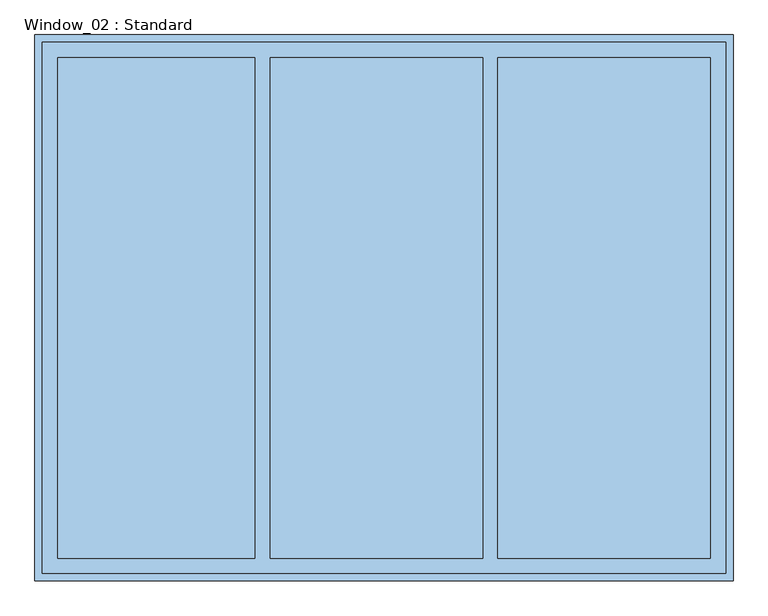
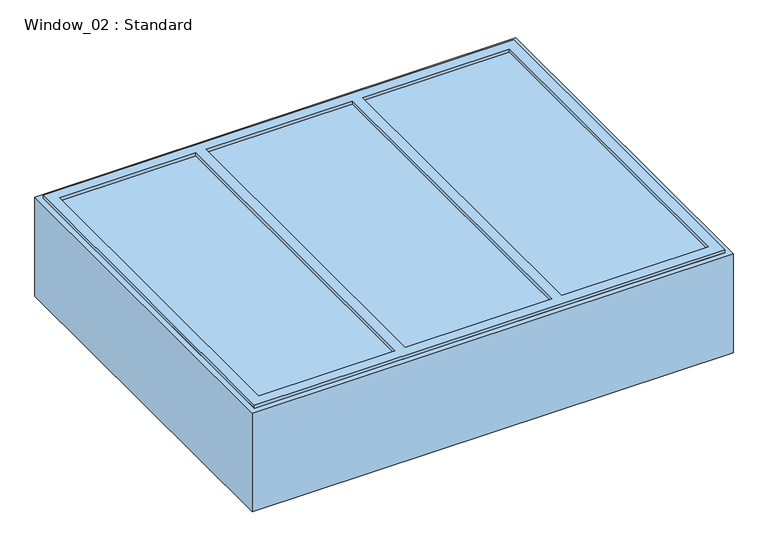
"""IFC4 building model written with IfcOpenShell, lengths in millimetres: window geometry, Window_02 : Standard."""

import ifcopenshell
import ifcopenshell.guid

model = None  # the IFC model being written
_history = None  # IfcOwnerHistory: only IFC2X3 demands one
_inside = {}  # id of a spatial element -> (the spatial element, [elements in it])
_under = {}  # id of a project, library or spatial element -> (it, [spatial elements below it])
_declared = {}  # id of a project -> (the project, [libraries it declares])
_typed = {}  # id of a type object -> (the type object, [elements of that type])
_made_of = {}  # id of a material, layer set ... -> (it, [elements and type objects made of it])


def new_model(schema):
    """Start an empty IFC model of exactly this schema.

    Asked for "IFC4X3", IfcOpenShell would pick the latest addendum, in which some entities
    have other attributes; the version numbers below select the first issue.
    IFC2X3 requires an IfcOwnerHistory on every rooted entity: one is made here for all.
    """
    global model, _history
    if schema == "IFC4X3":
        model = ifcopenshell.file(schema_version=(4, 3, 0, 0))
    else:
        model = ifcopenshell.file(schema=schema)
    _inside.clear()
    _under.clear()
    _declared.clear()
    _typed.clear()
    _made_of.clear()
    _history = None
    if model.schema == "IFC2X3":
        org = make("IfcOrganization", Name="unknown")
        user = make(
            "IfcPersonAndOrganization",
            ThePerson=make("IfcPerson", FamilyName="unknown"),
            TheOrganization=org,
        )
        app = make(
            "IfcApplication",
            ApplicationDeveloper=org,
            Version="unknown",
            ApplicationFullName="unknown",
            ApplicationIdentifier="unknown",
        )
        _history = make(
            "IfcOwnerHistory",
            OwningUser=user,
            OwningApplication=app,
            ChangeAction="ADDED",
            CreationDate=0,
        )
    return model


def make(cls, **values):
    """One entity of the class cls with the attributes given. An attribute that is None is left unset."""
    return model.create_entity(
        cls, **{name: value for name, value in values.items() if value is not None}
    )


def rooted(cls, **values):
    """An entity with a GlobalId (a new one), such as an element, a storey or a relation."""
    return make(cls, GlobalId=ifcopenshell.guid.new(), OwnerHistory=_history, **values)


def si_unit(unit_type, name, prefix=None):
    """IfcSIUnit, for example si_unit("LENGTHUNIT", "METRE", prefix="MILLI")."""
    return make("IfcSIUnit", UnitType=unit_type, Prefix=prefix, Name=name)


def assignment(units):
    """IfcUnitAssignment: the units of a project."""
    return None if units is None else make("IfcUnitAssignment", Units=units)


def point(xyz):
    """IfcCartesianPoint."""
    return None if xyz is None else make("IfcCartesianPoint", Coordinates=xyz)


def direction(xyz):
    """IfcDirection."""
    return None if xyz is None else make("IfcDirection", DirectionRatios=xyz)


def frame(location, z_axis=None, x_axis=None):
    """IfcAxis2Placement3D, a coordinate frame: its origin and axes. An axis left out is left unset."""
    return make(
        "IfcAxis2Placement3D",
        Location=point(location),
        Axis=direction(z_axis),
        RefDirection=direction(x_axis),
    )


def origin():
    """The frame at (0, 0, 0) with its axes left unset."""
    return frame((0.0, 0.0, 0.0))


def origin_with_axes():
    """The frame at (0, 0, 0) with the z axis (0, 0, 1) and the x axis (1, 0, 0) written out."""
    return frame((0.0, 0.0, 0.0), z_axis=(0.0, 0.0, 1.0), x_axis=(1.0, 0.0, 0.0))


def place(relative_to, where):
    """IfcLocalPlacement: puts the frame where relative to a parent placement (None: the world)."""
    return make(
        "IfcLocalPlacement", PlacementRelTo=relative_to, RelativePlacement=where
    )


def context(
    kind, dimensions, precision=None, world=None, true_north=None, identifier=None
):
    """IfcGeometricRepresentationContext, for example the 3D "Model" context."""
    return make(
        "IfcGeometricRepresentationContext",
        ContextIdentifier=identifier,
        ContextType=kind,
        CoordinateSpaceDimension=dimensions,
        Precision=precision,
        WorldCoordinateSystem=world,
        TrueNorth=true_north,
    )


def project(units=None, contexts=None):
    """IfcProject with its units and contexts."""
    return rooted(
        "IfcProject",
        Name="project",
        RepresentationContexts=contexts,
        UnitsInContext=assignment(units),
    )


def spatial(cls, under=None, at=None, **own):
    """A site, building, storey or space (cls), placed at a placement, below another one or the project."""
    s = rooted(cls, ObjectPlacement=at, **own)
    if under is not None:
        _under.setdefault(under.id(), (under, []))[1].append(s)
    return s


def polyline(points):
    """IfcPolyline through the points."""
    return make("IfcPolyline", Points=[point(p) for p in points])


def outline(outer, holes=None, kind="AREA"):
    """IfcArbitraryClosedProfileDef: a profile drawn as a closed curve; with holes, ...WithVoids."""
    if holes is None:
        return make("IfcArbitraryClosedProfileDef", ProfileType=kind, OuterCurve=outer)
    return make(
        "IfcArbitraryProfileDefWithVoids",
        ProfileType=kind,
        OuterCurve=outer,
        InnerCurves=holes,
    )


def extrude(swept, where, along, depth):
    """IfcExtrudedAreaSolid: the profile swept, set in the frame where, extruded along a direction by depth."""
    return make(
        "IfcExtrudedAreaSolid",
        SweptArea=swept,
        Position=where,
        ExtrudedDirection=direction(along),
        Depth=depth,
    )


def shape(context_of_items, identifier, shape_type, items):
    """IfcShapeRepresentation: the items that make up one representation, for example the "Body"."""
    return make(
        "IfcShapeRepresentation",
        ContextOfItems=context_of_items,
        RepresentationIdentifier=identifier,
        RepresentationType=shape_type,
        Items=items,
    )


def source(mapping_origin, context_of_items, identifier, shape_type, items):
    """IfcRepresentationMap: a shape defined once, which mapped items show again and again."""
    return make(
        "IfcRepresentationMap",
        MappingOrigin=mapping_origin,
        MappedRepresentation=shape(context_of_items, identifier, shape_type, items),
    )


def transform(
    local_origin,
    x_axis=None,
    y_axis=None,
    z_axis=None,
    scale=None,
    scale2=None,
    scale3=None,
    uniform=True,
):
    """IfcCartesianTransformationOperator3D, or its non-uniform kind. x_axis, y_axis, z_axis: its Axis1, 2, 3."""
    if uniform:
        return make(
            "IfcCartesianTransformationOperator3D",
            Axis1=direction(x_axis),
            Axis2=direction(y_axis),
            LocalOrigin=point(local_origin),
            Scale=scale,
            Axis3=direction(z_axis),
        )
    return make(
        "IfcCartesianTransformationOperator3DnonUniform",
        Axis1=direction(x_axis),
        Axis2=direction(y_axis),
        LocalOrigin=point(local_origin),
        Scale=scale,
        Axis3=direction(z_axis),
        Scale2=scale2,
        Scale3=scale3,
    )


def mapped(mapping_source, mapping_target):
    """IfcMappedItem: shows the shape of a source again, moved by a transform."""
    return make(
        "IfcMappedItem", MappingSource=mapping_source, MappingTarget=mapping_target
    )


def made_of(thing, what):
    """Note that an element or type object is made of a material, layer set ...; save() writes the relation."""
    if what is not None:
        _made_of.setdefault(what.id(), (what, []))[1].append(thing)
    return thing


def element(
    cls,
    number,
    at=None,
    inside=None,
    cuts=None,
    type_object=None,
    material=None,
    context=None,
    identifier="Body",
    shape_type=None,
    held_by="IfcProductDefinitionShape",
    body=None,
    shapes=None,
    **own,
):
    """One element of the class cls, such as IfcWall. Its Tag is "e" and its number.

    at: its placement. inside: the storey or other place that contains it. cuts: it is an
    opening in that element (IfcRelVoidsElement). A single representation is given by context,
    identifier, shape_type and body (its items); several are given by shapes. held_by: the class
    of the entity that holds the representations. save() writes the other relations.
    """
    e = rooted(cls, Tag="e%d" % number, ObjectPlacement=at, **own)
    if body is not None:
        shapes = [shape(context, identifier, shape_type, body)]
    if shapes is not None:
        e.Representation = make(held_by, Representations=shapes)
    if inside is not None:
        _inside.setdefault(inside.id(), (inside, []))[1].append(e)
    if cuts is not None:
        rooted(
            "IfcRelVoidsElement", RelatingBuildingElement=cuts, RelatedOpeningElement=e
        )
    if type_object is not None:
        _typed.setdefault(type_object.id(), (type_object, []))[1].append(e)
    return made_of(e, material)


def aggregate(whole, parts):
    """IfcRelAggregates: a whole, such as a stair, and the parts it consists of."""
    return rooted("IfcRelAggregates", RelatingObject=whole, RelatedObjects=parts)


def save(model, path):
    """Write the relations noted so far, then the file.

    IfcRelAggregates (storeys below a building ...), IfcRelContainedInSpatialStructure (elements
    in a storey), IfcRelDefinesByType, IfcRelAssociatesMaterial and IfcRelDeclares: one each for
    every whole, place, type object, material and project.
    """
    for whole, parts in _under.values():
        aggregate(whole, parts)
    for where, things in _inside.values():
        rooted(
            "IfcRelContainedInSpatialStructure",
            RelatedElements=things,
            RelatingStructure=where,
        )
    for kind, things in _typed.values():
        rooted("IfcRelDefinesByType", RelatedObjects=things, RelatingType=kind)
    for what, things in _made_of.values():
        rooted("IfcRelAssociatesMaterial", RelatedObjects=things, RelatingMaterial=what)
    for by, libraries in _declared.values():
        rooted("IfcRelDeclares", RelatingContext=by, RelatedDefinitions=libraries)
    model.write(path)


def window_02_standard_d52dc3cf(model_context):
    return source(origin(), model_context, "Body", "SweptSolid", [
        extrude(outline(polyline([(-900.0, -700.0), (-900.0, 700.0), (900.0, 700.0), (900.0, -700.0), (-900.0, -700.0)]), holes=[polyline([(-860.0, 660.0), (-860.0, -660.0), (-340.0, -660.0), (-340.0, 660.0), (-860.0, 660.0)]), polyline([(260.0, 660.0), (-300.0, 660.0), (-300.0, -660.0), (260.0, -660.0), (260.0, 660.0)]), polyline([(300.0, -660.0), (860.0, -660.0), (860.0, 660.0), (300.0, 660.0), (300.0, -660.0)])]), frame((0.0, 0.0, 395.094128), z_axis=(0.0, 0.0, 1.0), x_axis=(1.0, 0.0, 0.0)), (0.0, 0.0, 1.0), 17.0543259),
        extrude(outline(polyline([(-860.0, 660.0), (860.0, 660.0), (860.0, -660.0), (-860.0, -660.0), (-860.0, 660.0)])), frame((0.0, 0.0, 395.094128), z_axis=(0.0, 0.0, 1.0), x_axis=(1.0, 0.0, 0.0)), (0.0, 0.0, 1.0), 4.905872),
        extrude(outline(polyline([(900.0, 700.0), (900.0, -700.0), (-900.0, -700.0), (-900.0, 700.0), (900.0, 700.0)]), holes=[polyline([(-860.0, 660.0), (-860.0, -660.0), (860.0, -660.0), (860.0, 660.0), (-860.0, 660.0)])]), frame((0.0, 0.0, 330.0), z_axis=(0.0, 0.0, 1.0), x_axis=(1.0, 0.0, 0.0)), (0.0, 0.0, 1.0), 70.0),
        extrude(outline(polyline([(920.0, 720.0), (920.0, -720.0), (-920.0, -720.0), (-920.0, 720.0), (920.0, 720.0)]), holes=[polyline([(900.0, 700.0), (-900.0, 700.0), (-900.0, -700.0), (900.0, -700.0), (900.0, 700.0)])]), origin_with_axes(), (0.0, 0.0, 1.0), 400.0),
    ])


if __name__ == "__main__":
    model = new_model("IFC4")
    model_context = context("Model", 3, world=origin())
    ifc_project = project(units=[si_unit("LENGTHUNIT", "METRE", prefix="MILLI")], contexts=[model_context])
    site = spatial("IfcSite", under=ifc_project)
    building = spatial("IfcBuilding", under=site)
    placement = place(None, origin())
    window_02_standard_shape = window_02_standard_d52dc3cf(model_context)
    element("IfcWindow", 1, ObjectType="Window_02 : Standard", at=placement, inside=building, context=model_context, shape_type="MappedRepresentation", body=[
        mapped(window_02_standard_shape, transform((0.0, 0.0, 0.0), x_axis=(1.0, 0.0, 0.0), y_axis=(0.0, 1.0, 0.0), z_axis=(0.0, 0.0, 1.0))),
    ])
    save(model, "model.ifc")
